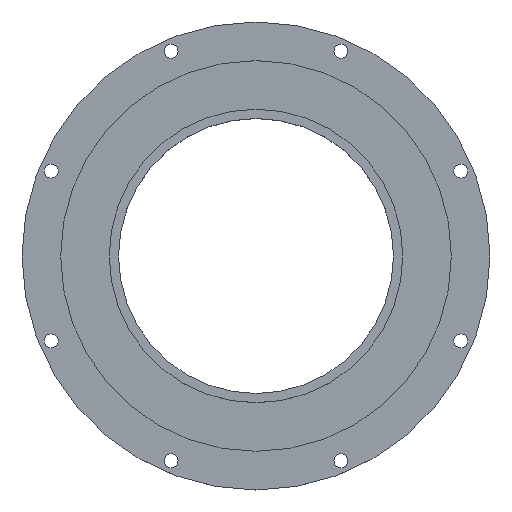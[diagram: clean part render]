
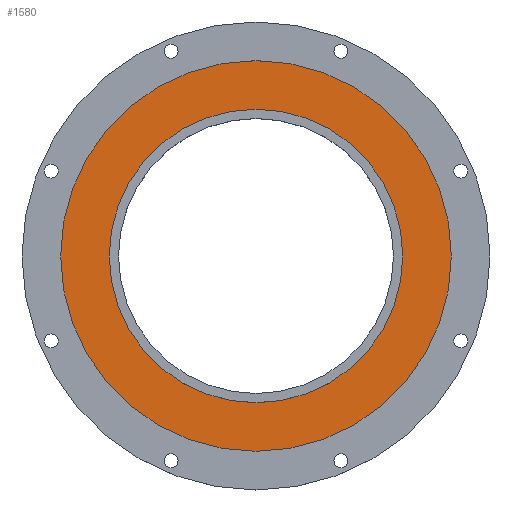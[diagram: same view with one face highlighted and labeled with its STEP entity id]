
A CAD part, top view. The second image highlights one B-rep face of the part: STEP entity #1580.
In plain terms, the highlighted planar face has unit normal (0, 0, 1).
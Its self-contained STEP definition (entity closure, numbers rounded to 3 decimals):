
#1394 = CYLINDRICAL_SURFACE('',#1395,47.653);
#1395 = AXIS2_PLACEMENT_3D('',#1396,#1397,#1398);
#1396 = CARTESIAN_POINT('',(0.,0.,185.5));
#1397 = DIRECTION('',(-0.,-0.,-1.));
#1398 = DIRECTION('',(1.,0.,0.));
#1450 = CYLINDRICAL_SURFACE('',#1451,63.45);
#1451 = AXIS2_PLACEMENT_3D('',#1452,#1453,#1454);
#1452 = CARTESIAN_POINT('',(0.,0.,203.5)
  );
#1453 = DIRECTION('',(-0.,-0.,-1.));
#1454 = DIRECTION('',(1.,0.,0.));
#1471 = EDGE_CURVE('',#1472,#1472,#1474,.T.);
#1472 = VERTEX_POINT('',#1473);
#1473 = CARTESIAN_POINT('',(47.653,0.,205.));
#1474 = SURFACE_CURVE('',#1475,(#1480,#1487),.PCURVE_S1.);
#1475 = CIRCLE('',#1476,47.653);
#1476 = AXIS2_PLACEMENT_3D('',#1477,#1478,#1479);
#1477 = CARTESIAN_POINT('',(0.,0.,205.));
#1478 = DIRECTION('',(0.,0.,-1.));
#1479 = DIRECTION('',(1.,0.,0.));
#1480 = PCURVE('',#1394,#1481);
#1481 = DEFINITIONAL_REPRESENTATION('',(#1482),#1486);
#1482 = LINE('',#1483,#1484);
#1483 = CARTESIAN_POINT('',(-6.283,-19.5));
#1484 = VECTOR('',#1485,1.);
#1485 = DIRECTION('',(1.,-0.));
#1486 = ( GEOMETRIC_REPRESENTATION_CONTEXT(2) 
PARAMETRIC_REPRESENTATION_CONTEXT() REPRESENTATION_CONTEXT('2D SPACE',''
  ) );
#1487 = PCURVE('',#1488,#1493);
#1488 = PLANE('',#1489);
#1489 = AXIS2_PLACEMENT_3D('',#1490,#1491,#1492);
#1490 = CARTESIAN_POINT('',(0.,0.,205.)
  );
#1491 = DIRECTION('',(0.,0.,1.));
#1492 = DIRECTION('',(1.,0.,-0.));
#1493 = DEFINITIONAL_REPRESENTATION('',(#1494),#1502);
#1494 = ( BOUNDED_CURVE() B_SPLINE_CURVE(2,(#1495,#1496,#1497,#1498,
#1499,#1500,#1501),.UNSPECIFIED.,.T.,.F.) B_SPLINE_CURVE_WITH_KNOTS((1,2
    ,2,2,2,1),(-2.094,0.,2.094,4.189,
6.283,8.378),.UNSPECIFIED.) CURVE() 
GEOMETRIC_REPRESENTATION_ITEM() RATIONAL_B_SPLINE_CURVE((1.,0.5,1.,0.5,
1.,0.5,1.)) REPRESENTATION_ITEM('') );
#1495 = CARTESIAN_POINT('',(47.653,0.));
#1496 = CARTESIAN_POINT('',(47.653,-82.538));
#1497 = CARTESIAN_POINT('',(-23.827,-41.269));
#1498 = CARTESIAN_POINT('',(-95.306,0.));
#1499 = CARTESIAN_POINT('',(-23.827,41.269));
#1500 = CARTESIAN_POINT('',(47.653,82.538));
#1501 = CARTESIAN_POINT('',(47.653,0.));
#1502 = ( GEOMETRIC_REPRESENTATION_CONTEXT(2) 
PARAMETRIC_REPRESENTATION_CONTEXT() REPRESENTATION_CONTEXT('2D SPACE',''
  ) );
#1530 = EDGE_CURVE('',#1531,#1531,#1533,.T.);
#1531 = VERTEX_POINT('',#1532);
#1532 = CARTESIAN_POINT('',(63.45,0.,205.));
#1533 = SURFACE_CURVE('',#1534,(#1539,#1546),.PCURVE_S1.);
#1534 = CIRCLE('',#1535,63.45);
#1535 = AXIS2_PLACEMENT_3D('',#1536,#1537,#1538);
#1536 = CARTESIAN_POINT('',(0.,0.,205.)
  );
#1537 = DIRECTION('',(0.,0.,-1.));
#1538 = DIRECTION('',(1.,0.,0.));
#1539 = PCURVE('',#1450,#1540);
#1540 = DEFINITIONAL_REPRESENTATION('',(#1541),#1545);
#1541 = LINE('',#1542,#1543);
#1542 = CARTESIAN_POINT('',(-6.283,-1.5));
#1543 = VECTOR('',#1544,1.);
#1544 = DIRECTION('',(1.,-0.));
#1545 = ( GEOMETRIC_REPRESENTATION_CONTEXT(2) 
PARAMETRIC_REPRESENTATION_CONTEXT() REPRESENTATION_CONTEXT('2D SPACE',''
  ) );
#1546 = PCURVE('',#1488,#1547);
#1547 = DEFINITIONAL_REPRESENTATION('',(#1548),#1556);
#1548 = ( BOUNDED_CURVE() B_SPLINE_CURVE(2,(#1549,#1550,#1551,#1552,
#1553,#1554,#1555),.UNSPECIFIED.,.T.,.F.) B_SPLINE_CURVE_WITH_KNOTS((1,2
    ,2,2,2,1),(-2.094,0.,2.094,4.189,
6.283,8.378),.UNSPECIFIED.) CURVE() 
GEOMETRIC_REPRESENTATION_ITEM() RATIONAL_B_SPLINE_CURVE((1.,0.5,1.,0.5,
1.,0.5,1.)) REPRESENTATION_ITEM('') );
#1549 = CARTESIAN_POINT('',(63.45,0.));
#1550 = CARTESIAN_POINT('',(63.45,-109.899));
#1551 = CARTESIAN_POINT('',(-31.725,-54.949));
#1552 = CARTESIAN_POINT('',(-126.9,0.));
#1553 = CARTESIAN_POINT('',(-31.725,54.949));
#1554 = CARTESIAN_POINT('',(63.45,109.899));
#1555 = CARTESIAN_POINT('',(63.45,0.));
#1556 = ( GEOMETRIC_REPRESENTATION_CONTEXT(2) 
PARAMETRIC_REPRESENTATION_CONTEXT() REPRESENTATION_CONTEXT('2D SPACE',''
  ) );
#1580 = ADVANCED_FACE('',(#1581,#1584),#1488,.T.);
#1581 = FACE_BOUND('',#1582,.T.);
#1582 = EDGE_LOOP('',(#1583));
#1583 = ORIENTED_EDGE('',*,*,#1530,.F.);
#1584 = FACE_BOUND('',#1585,.T.);
#1585 = EDGE_LOOP('',(#1586));
#1586 = ORIENTED_EDGE('',*,*,#1471,.T.);
